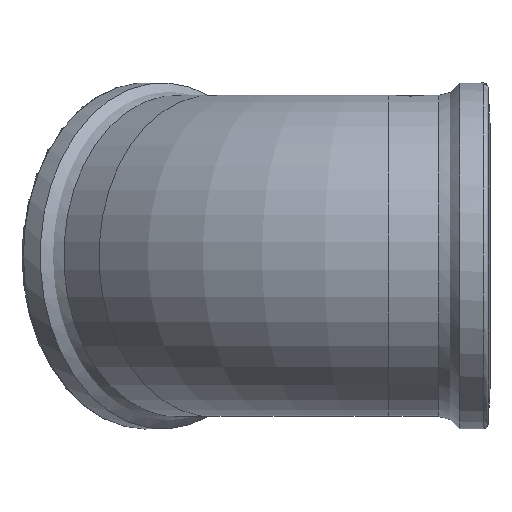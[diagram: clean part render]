
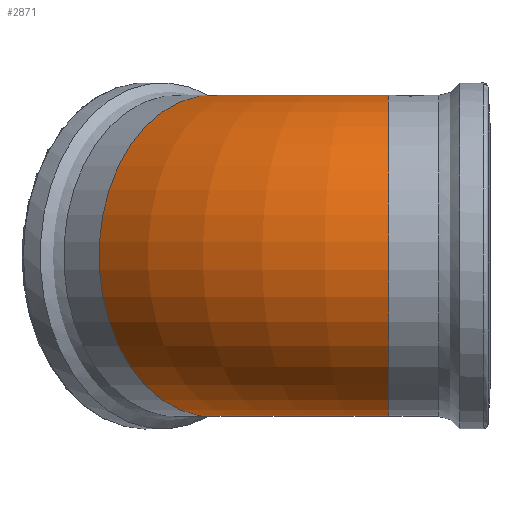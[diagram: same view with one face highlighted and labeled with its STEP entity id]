
A CAD part, left-side view. The second image highlights one B-rep face of the part: STEP entity #2871.
In plain terms, the highlighted toroidal (fillet/blend) face has major radius 52.35 mm and minor radius 33.8 mm.
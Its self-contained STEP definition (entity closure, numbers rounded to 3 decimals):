
#882=CARTESIAN_POINT('',(33.35,21.3,5.5));
#883=VERTEX_POINT('',#882);
#890=CARTESIAN_POINT('',(33.35,21.3,-5.5));
#891=VERTEX_POINT('',#890);
#892=CARTESIAN_POINT('',(0.0,21.3,0.0));
#893=DIRECTION('',(0.0,-1.0,0.0));
#894=DIRECTION('',(1.0,0.0,0.0));
#895=AXIS2_PLACEMENT_3D('',#892,#893,#894);
#896=CIRCLE('',#895,33.8);
#897=EDGE_CURVE('',#883,#891,#896,.T.);
#2593=CARTESIAN_POINT('',(38.915,34.735,-5.5));
#2594=VERTEX_POINT('',#2593);
#2595=CARTESIAN_POINT('',(52.35,21.3,-5.5));
#2596=DIRECTION('',(0.0,0.0,1.0));
#2597=DIRECTION('',(-1.0,0.0,0.0));
#2598=AXIS2_PLACEMENT_3D('',#2595,#2596,#2597);
#2599=CIRCLE('',#2598,19.);
#2600=EDGE_CURVE('',#2594,#891,#2599,.T.);
#2674=CARTESIAN_POINT('',(38.915,34.735,5.5));
#2675=VERTEX_POINT('',#2674);
#2682=CARTESIAN_POINT('',(52.35,21.3,5.5));
#2683=DIRECTION('',(0.0,0.0,-1.0));
#2684=DIRECTION('',(-1.0,0.0,0.0));
#2685=AXIS2_PLACEMENT_3D('',#2682,#2683,#2684);
#2686=CIRCLE('',#2685,19.);
#2687=EDGE_CURVE('',#883,#2675,#2686,.T.);
#2847=CARTESIAN_POINT('',(15.333,58.317,0.0));
#2848=DIRECTION('',(-0.707,-0.707,0.0));
#2849=DIRECTION('',(0.707,-0.707,0.0));
#2850=AXIS2_PLACEMENT_3D('',#2847,#2848,#2849);
#2851=CIRCLE('',#2850,33.8);
#2852=EDGE_CURVE('',#2675,#2594,#2851,.T.);
#2860=CARTESIAN_POINT('',(52.35,21.3,0.0));
#2861=DIRECTION('',(0.0,0.0,-1.0));
#2862=DIRECTION('',(-1.0,0.0,0.0));
#2863=AXIS2_PLACEMENT_3D('',#2860,#2861,#2862);
#2864=TOROIDAL_SURFACE('',#2863,52.35,33.8);
#2865=ORIENTED_EDGE('',*,*,#897,.F.);
#2866=ORIENTED_EDGE('',*,*,#2687,.T.);
#2867=ORIENTED_EDGE('',*,*,#2852,.T.);
#2868=ORIENTED_EDGE('',*,*,#2600,.T.);
#2869=EDGE_LOOP('',(#2865,#2866,#2867,#2868));
#2870=FACE_OUTER_BOUND('',#2869,.T.);
#2871=ADVANCED_FACE('',(#2870),#2864,.T.);
